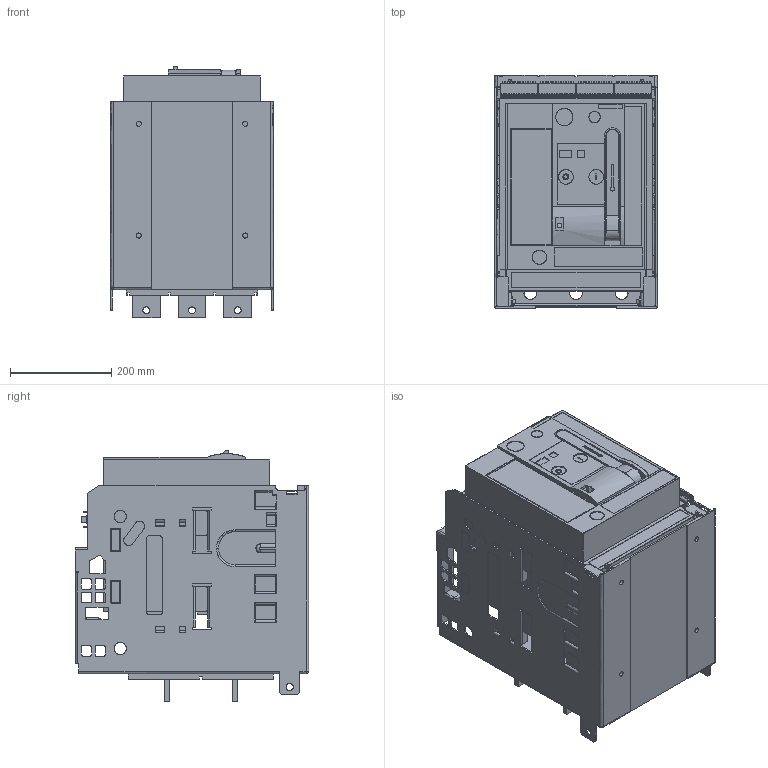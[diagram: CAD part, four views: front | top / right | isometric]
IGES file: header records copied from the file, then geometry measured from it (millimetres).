
Start section: SolidWorks IGES file using analytic representation for surfaces
Global section: file name: U:\14_RD\05_Technical_office\04_Office\Hrdinova\3D modely - IGES\Arion\ARION_WL1110-___36.IGS; native system: SolidWorks 2011; preprocessor: SolidWorks 2011; author: adhrja3; date: 170609.064753; units: millimetre
Bounding box: 320 x 460 x 496.5 mm (x, y, z)
Surface area: 2625745.1 mm2 (no closed solid volume)
Topology: 0 solids, 0 shells, 3072 faces, 26106 edges, 26098 vertices
Faces by surface type: bspline 2503, revolution 569
